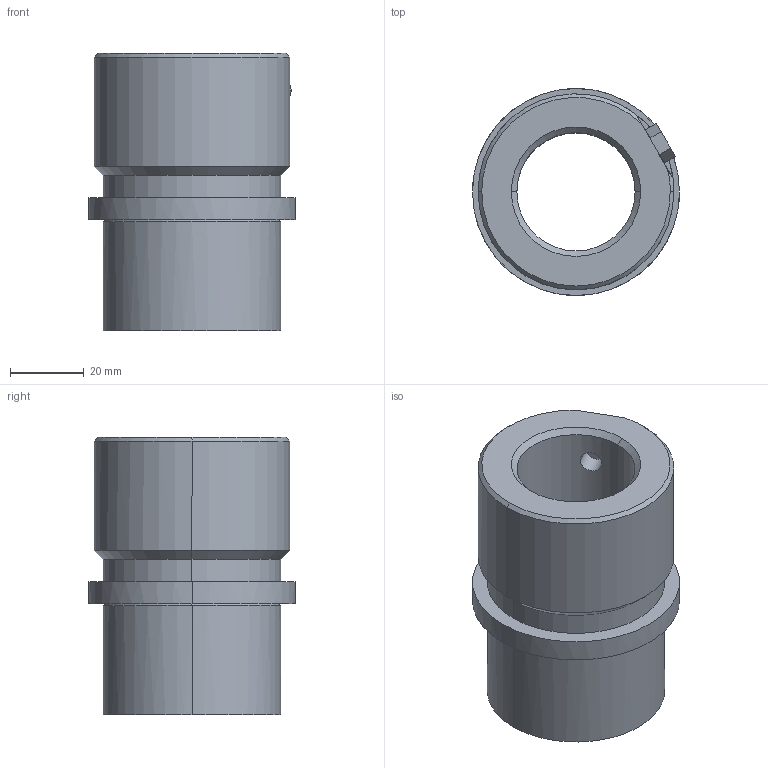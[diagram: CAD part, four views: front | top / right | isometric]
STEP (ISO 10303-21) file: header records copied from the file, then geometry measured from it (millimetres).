
FILE_DESCRIPTION(('CATIA V5 STEP Exchange'),'2;1');
FILE_NAME('C:\Users\Utente\Desktop\IO LAVORO\3D X SITO CF\X SITO\741\741-32.stp','2021-01-20T18:37:28+00:00',('none'),('none'),'CATIA Version 5 Release 20 GA (IN-10)','CATIA V5 STEP AP203','none');
FILE_SCHEMA(('CONFIG_CONTROL_DESIGN'));
Length unit declared in the file: millimetre
Products named in the file (1): 741-32
Assembly tree (1 placements, depth 2):
  741-32
    #58
Bounding box: 56 x 56 x 75 mm (x, y, z)
Volume: 91163.7 mm3; surface area: 23594.9 mm2
Topology: 1 solids, 1 shells, 42 faces, 92 edges, 57 vertices
Faces by surface type: plane 15, cylinder 14, cone 9, torus 4
Entity records: 1317 total; most frequent: CARTESIAN_POINT 354, ORIENTED_EDGE 184, DIRECTION 168, EDGE_CURVE 92, AXIS2_PLACEMENT_3D 81, VERTEX_POINT 57, EDGE_LOOP 49, VECTOR 44
